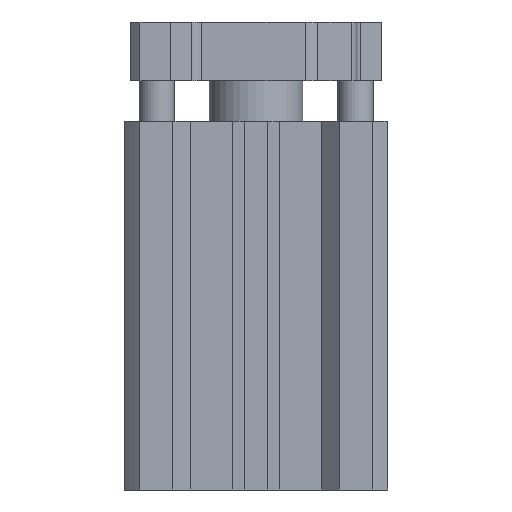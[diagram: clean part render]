
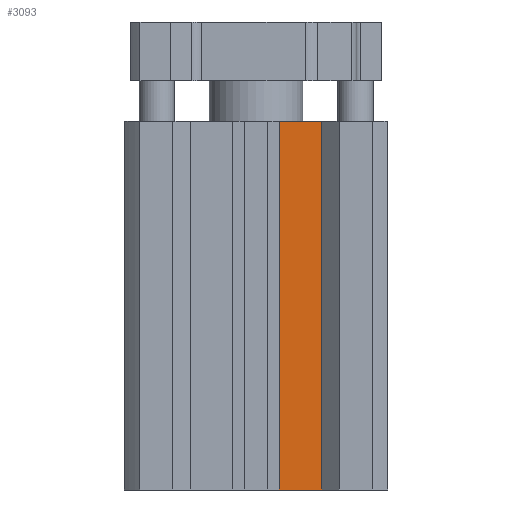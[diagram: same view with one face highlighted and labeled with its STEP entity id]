
A CAD part, front view. The second image highlights one B-rep face of the part: STEP entity #3093.
In plain terms, the highlighted planar face has unit normal (0, -1, 0).
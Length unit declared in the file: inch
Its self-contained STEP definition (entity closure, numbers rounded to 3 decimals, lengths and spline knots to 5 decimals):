
#75=PLANE('',#3379);
#221=FACE_OUTER_BOUND('',#396,.T.);
#396=EDGE_LOOP('',(#2246,#2247,#2248,#2249));
#742=LINE('',#4758,#1083);
#743=LINE('',#4760,#1084);
#744=LINE('',#4762,#1085);
#745=LINE('',#4763,#1086);
#1083=VECTOR('',#3786,39.37008);
#1084=VECTOR('',#3787,39.37008);
#1085=VECTOR('',#3788,39.37008);
#1086=VECTOR('',#3789,39.37008);
#1452=VERTEX_POINT('',#4756);
#1453=VERTEX_POINT('',#4757);
#1454=VERTEX_POINT('',#4759);
#1455=VERTEX_POINT('',#4761);
#1770=EDGE_CURVE('',#1452,#1453,#742,.T.);
#1771=EDGE_CURVE('',#1454,#1453,#743,.T.);
#1772=EDGE_CURVE('',#1455,#1454,#744,.T.);
#1773=EDGE_CURVE('',#1455,#1452,#745,.T.);
#2246=ORIENTED_EDGE('',*,*,#1770,.T.);
#2247=ORIENTED_EDGE('',*,*,#1771,.F.);
#2248=ORIENTED_EDGE('',*,*,#1772,.F.);
#2249=ORIENTED_EDGE('',*,*,#1773,.T.);
#3093=ADVANCED_FACE('',(#221),#75,.F.);
#3379=AXIS2_PLACEMENT_3D('',#4755,#3784,#3785);
#3784=DIRECTION('center_axis',(0.,1.,0.));
#3785=DIRECTION('ref_axis',(-1.,0.,0.));
#3786=DIRECTION('',(-1.,0.,0.));
#3787=DIRECTION('',(0.,0.,1.));
#3788=DIRECTION('',(-1.,0.,0.));
#3789=DIRECTION('',(0.,0.,1.));
#4755=CARTESIAN_POINT('Origin',(-0.44094,-0.76772,-1.24016));
#4756=CARTESIAN_POINT('',(0.44094,-0.76772,1.24016));
#4757=CARTESIAN_POINT('',(0.15748,-0.76772,1.24016));
#4758=CARTESIAN_POINT('',(-0.44094,-0.76772,1.24016));
#4759=CARTESIAN_POINT('',(0.15748,-0.76772,-1.24016));
#4760=CARTESIAN_POINT('',(0.15748,-0.76772,-1.38211));
#4761=CARTESIAN_POINT('',(0.44094,-0.76772,-1.24016));
#4762=CARTESIAN_POINT('',(-0.44094,-0.76772,-1.24016));
#4763=CARTESIAN_POINT('',(0.44094,-0.76772,-1.24016));
